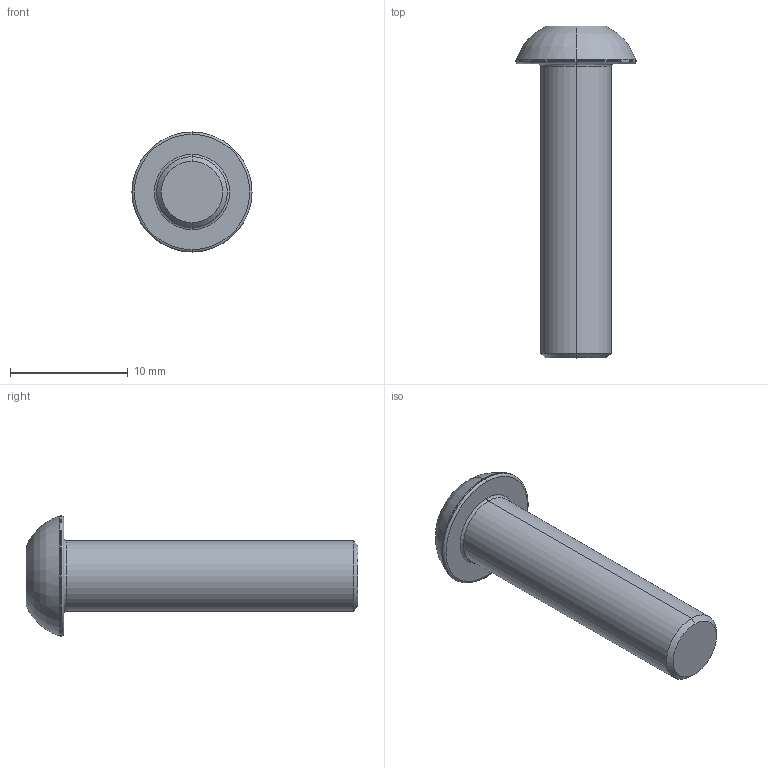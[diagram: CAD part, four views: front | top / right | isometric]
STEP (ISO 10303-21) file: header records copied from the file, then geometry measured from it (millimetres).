
FILE_DESCRIPTION (( 'STEP AP203' ), '1' );
FILE_NAME ('LGDD-TD-M6x25.STEP', '2026-08-14T01:27:43', ( '' ), ( '' ), 'SwSTEP 2.0', 'SolidWorks 2020', '' );
FILE_SCHEMA (( 'CONFIG_CONTROL_DESIGN' ));
Length unit declared in the file: millimetre
Products named in the file (1): LGDD-TD-M6x25
Bounding box: 10.2 x 28.2 x 10.2 mm (x, y, z)
Volume: 856.3 mm3; surface area: 712.9 mm2
Topology: 1 solids, 1 shells, 31 faces, 59 edges, 32 vertices
Faces by surface type: plane 10, cone 9, torus 8, cylinder 4
Entity records: 860 total; most frequent: CARTESIAN_POINT 150, DIRECTION 149, ORIENTED_EDGE 118, AXIS2_PLACEMENT_3D 65, EDGE_CURVE 59, EDGE_LOOP 33, CIRCLE 33, VERTEX_POINT 32
